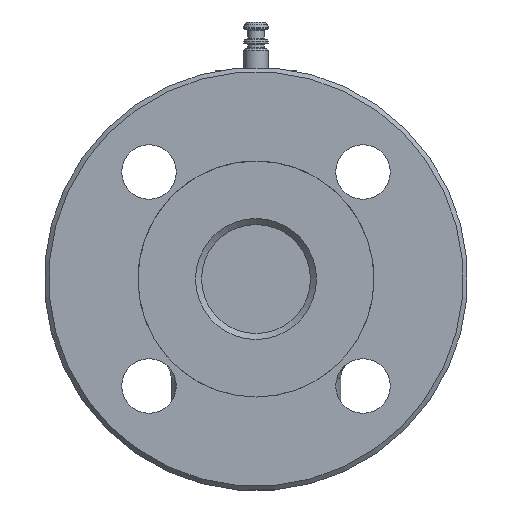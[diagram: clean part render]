
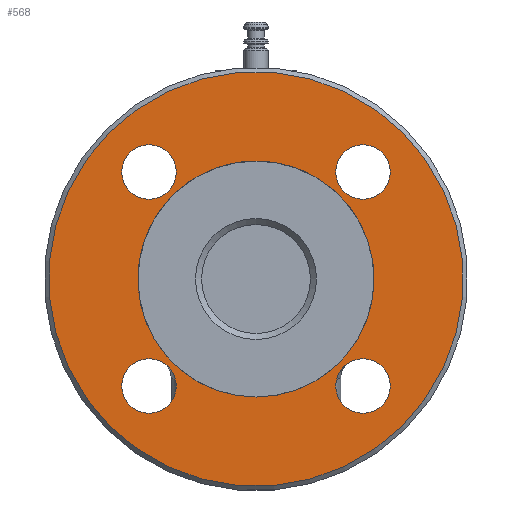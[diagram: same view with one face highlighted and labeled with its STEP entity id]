
A CAD part, left-side view. The second image highlights one B-rep face of the part: STEP entity #568.
In plain terms, the highlighted planar face has unit normal (-1, 0, 0).
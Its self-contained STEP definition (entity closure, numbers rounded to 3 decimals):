
#293=PLANE('',#2785);
#349=FACE_BOUND('',#916,.T.);
#350=FACE_BOUND('',#917,.T.);
#351=FACE_BOUND('',#918,.T.);
#352=FACE_BOUND('',#919,.T.);
#353=FACE_BOUND('',#920,.T.);
#354=FACE_BOUND('',#921,.T.);
#568=ADVANCED_FACE('',(#349,#350,#351,#352,#353,#354),#293,.T.);
#916=EDGE_LOOP('',(#1411));
#917=EDGE_LOOP('',(#1412));
#918=EDGE_LOOP('',(#1413));
#919=EDGE_LOOP('',(#1414));
#920=EDGE_LOOP('',(#1415));
#921=EDGE_LOOP('',(#1416));
#1232=CIRCLE('',#2779,68.5);
#1233=CIRCLE('',#2780,39.);
#1234=CIRCLE('',#2781,9.);
#1235=CIRCLE('',#2782,9.);
#1236=CIRCLE('',#2783,9.);
#1237=CIRCLE('',#2784,9.);
#1411=ORIENTED_EDGE('',*,*,#2331,.T.);
#1412=ORIENTED_EDGE('',*,*,#2332,.F.);
#1413=ORIENTED_EDGE('',*,*,#2333,.T.);
#1414=ORIENTED_EDGE('',*,*,#2334,.T.);
#1415=ORIENTED_EDGE('',*,*,#2335,.T.);
#1416=ORIENTED_EDGE('',*,*,#2336,.T.);
#2083=VERTEX_POINT('',#3910);
#2084=VERTEX_POINT('',#3912);
#2085=VERTEX_POINT('',#3914);
#2086=VERTEX_POINT('',#3916);
#2087=VERTEX_POINT('',#3918);
#2088=VERTEX_POINT('',#3920);
#2331=EDGE_CURVE('',#2083,#2083,#1232,.T.);
#2332=EDGE_CURVE('',#2084,#2084,#1233,.T.);
#2333=EDGE_CURVE('',#2085,#2085,#1234,.T.);
#2334=EDGE_CURVE('',#2086,#2086,#1235,.T.);
#2335=EDGE_CURVE('',#2087,#2087,#1236,.T.);
#2336=EDGE_CURVE('',#2088,#2088,#1237,.T.);
#2779=AXIS2_PLACEMENT_3D('',#3909,#3149,#3150);
#2780=AXIS2_PLACEMENT_3D('',#3911,#3151,#3152);
#2781=AXIS2_PLACEMENT_3D('',#3913,#3153,#3154);
#2782=AXIS2_PLACEMENT_3D('',#3915,#3155,#3156);
#2783=AXIS2_PLACEMENT_3D('',#3917,#3157,#3158);
#2784=AXIS2_PLACEMENT_3D('',#3919,#3159,#3160);
#2785=AXIS2_PLACEMENT_3D('',#3921,#3161,#3162);
#3149=DIRECTION('',(-1.,0.,0.));
#3150=DIRECTION('',(0.,0.707,0.707));
#3151=DIRECTION('',(-1.,0.,0.));
#3152=DIRECTION('',(0.,0.707,0.707));
#3153=DIRECTION('',(1.,0.,0.));
#3154=DIRECTION('',(0.,-0.707,0.707));
#3155=DIRECTION('',(1.,0.,0.));
#3156=DIRECTION('',(0.,0.707,0.707));
#3157=DIRECTION('',(1.,0.,0.));
#3158=DIRECTION('',(0.,0.707,-0.707));
#3159=DIRECTION('',(1.,0.,0.));
#3160=DIRECTION('',(0.,-0.707,-0.707));
#3161=DIRECTION('',(-1.,0.,0.));
#3162=DIRECTION('',(0.,0.707,0.707));
#3909=CARTESIAN_POINT('',(12.,0.,100.));
#3910=CARTESIAN_POINT('',(12.,48.437,148.437));
#3911=CARTESIAN_POINT('',(12.,0.,100.));
#3912=CARTESIAN_POINT('',(12.,27.577,127.577));
#3913=CARTESIAN_POINT('',(12.,35.355,135.355));
#3914=CARTESIAN_POINT('',(12.,28.991,141.719));
#3915=CARTESIAN_POINT('',(12.,35.355,64.645));
#3916=CARTESIAN_POINT('',(12.,41.719,71.009));
#3917=CARTESIAN_POINT('',(12.,-35.355,64.645));
#3918=CARTESIAN_POINT('',(12.,-28.991,58.281));
#3919=CARTESIAN_POINT('',(12.,-35.355,135.355));
#3920=CARTESIAN_POINT('',(12.,-41.719,128.991));
#3921=CARTESIAN_POINT('',(12.,0.,100.));
